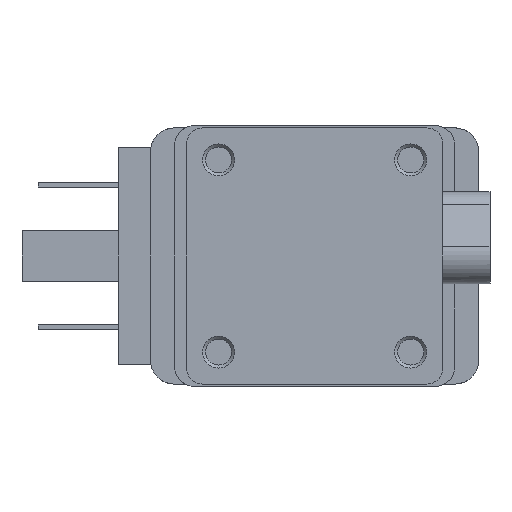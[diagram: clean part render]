
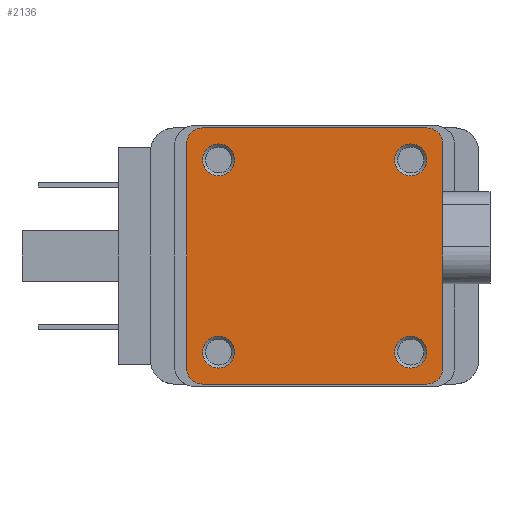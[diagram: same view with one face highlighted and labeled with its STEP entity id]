
A CAD part, front view. The second image highlights one B-rep face of the part: STEP entity #2136.
In plain terms, the highlighted planar face has unit normal (0, -1, 0).
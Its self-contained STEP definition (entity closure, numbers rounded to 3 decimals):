
#90=CIRCLE('',#2260,2.);
#91=CIRCLE('',#2263,2.);
#93=CIRCLE('',#2267,2.);
#96=CIRCLE('',#2272,2.);
#98=CIRCLE('',#2276,2.);
#99=CIRCLE('',#2277,2.);
#100=CIRCLE('',#2278,2.);
#101=CIRCLE('',#2279,2.);
#448=ORIENTED_EDGE('',*,*,#692,.F.);
#449=ORIENTED_EDGE('',*,*,#693,.F.);
#450=ORIENTED_EDGE('',*,*,#694,.F.);
#451=ORIENTED_EDGE('',*,*,#695,.F.);
#452=ORIENTED_EDGE('',*,*,#672,.F.);
#453=ORIENTED_EDGE('',*,*,#691,.F.);
#454=ORIENTED_EDGE('',*,*,#688,.F.);
#455=ORIENTED_EDGE('',*,*,#685,.F.);
#456=ORIENTED_EDGE('',*,*,#681,.F.);
#457=ORIENTED_EDGE('',*,*,#679,.F.);
#458=ORIENTED_EDGE('',*,*,#676,.F.);
#459=ORIENTED_EDGE('',*,*,#674,.F.);
#672=EDGE_CURVE('',#823,#824,#90,.T.);
#674=EDGE_CURVE('',#824,#825,#977,.T.);
#676=EDGE_CURVE('',#825,#826,#91,.T.);
#679=EDGE_CURVE('',#826,#828,#980,.T.);
#681=EDGE_CURVE('',#828,#829,#93,.T.);
#685=EDGE_CURVE('',#829,#832,#984,.T.);
#688=EDGE_CURVE('',#832,#833,#96,.T.);
#691=EDGE_CURVE('',#833,#823,#987,.T.);
#692=EDGE_CURVE('',#835,#835,#98,.T.);
#693=EDGE_CURVE('',#836,#836,#99,.T.);
#694=EDGE_CURVE('',#837,#837,#100,.T.);
#695=EDGE_CURVE('',#838,#838,#101,.T.);
#823=VERTEX_POINT('',#3086);
#824=VERTEX_POINT('',#3088);
#825=VERTEX_POINT('',#3092);
#826=VERTEX_POINT('',#3096);
#828=VERTEX_POINT('',#3102);
#829=VERTEX_POINT('',#3106);
#832=VERTEX_POINT('',#3114);
#833=VERTEX_POINT('',#3119);
#835=VERTEX_POINT('',#3127);
#836=VERTEX_POINT('',#3129);
#837=VERTEX_POINT('',#3131);
#838=VERTEX_POINT('',#3133);
#977=LINE('',#3091,#1114);
#980=LINE('',#3101,#1117);
#984=LINE('',#3113,#1121);
#987=LINE('',#3124,#1124);
#1114=VECTOR('',#2634,1000.);
#1117=VECTOR('',#2645,1000.);
#1121=VECTOR('',#2657,1000.);
#1124=VECTOR('',#2670,1000.);
#1208=EDGE_LOOP('',(#448));
#1209=EDGE_LOOP('',(#449));
#1210=EDGE_LOOP('',(#450));
#1211=EDGE_LOOP('',(#451));
#1212=EDGE_LOOP('',(#452,#453,#454,#455,#456,#457,#458,#459));
#1329=FACE_BOUND('',#1208,.T.);
#1330=FACE_BOUND('',#1209,.T.);
#1331=FACE_BOUND('',#1210,.T.);
#1332=FACE_BOUND('',#1211,.T.);
#1333=FACE_BOUND('',#1212,.T.);
#1421=PLANE('',#2275);
#2136=ADVANCED_FACE('',(#1329,#1330,#1331,#1332,#1333),#1421,.F.);
#2260=AXIS2_PLACEMENT_3D('',#3087,#2629,#2630);
#2263=AXIS2_PLACEMENT_3D('',#3095,#2638,#2639);
#2267=AXIS2_PLACEMENT_3D('',#3105,#2649,#2650);
#2272=AXIS2_PLACEMENT_3D('',#3118,#2663,#2664);
#2275=AXIS2_PLACEMENT_3D('',#3125,#2671,#2672);
#2276=AXIS2_PLACEMENT_3D('',#3126,#2673,#2674);
#2277=AXIS2_PLACEMENT_3D('',#3128,#2675,#2676);
#2278=AXIS2_PLACEMENT_3D('',#3130,#2677,#2678);
#2279=AXIS2_PLACEMENT_3D('',#3132,#2679,#2680);
#2629=DIRECTION('',(0.,1.,0.));
#2630=DIRECTION('',(1.,0.,0.));
#2634=DIRECTION('',(0.,0.,1.));
#2638=DIRECTION('',(0.,1.,0.));
#2639=DIRECTION('',(1.,0.,0.));
#2645=DIRECTION('',(1.,0.,0.));
#2649=DIRECTION('',(0.,1.,0.));
#2650=DIRECTION('',(1.,0.,0.));
#2657=DIRECTION('',(0.,0.,-1.));
#2663=DIRECTION('',(0.,1.,0.));
#2664=DIRECTION('',(1.,0.,0.));
#2670=DIRECTION('',(-1.,0.,0.));
#2671=DIRECTION('',(0.,1.,0.));
#2672=DIRECTION('',(0.,0.,1.));
#2673=DIRECTION('',(0.,-1.,0.));
#2674=DIRECTION('',(0.,0.,-1.));
#2675=DIRECTION('',(0.,-1.,0.));
#2676=DIRECTION('',(0.,0.,-1.));
#2677=DIRECTION('',(0.,-1.,0.));
#2678=DIRECTION('',(0.,0.,-1.));
#2679=DIRECTION('',(0.,-1.,0.));
#2680=DIRECTION('',(0.,0.,-1.));
#3086=CARTESIAN_POINT('',(6.5,-20.8,-32.));
#3087=CARTESIAN_POINT('',(6.5,-20.8,-30.));
#3088=CARTESIAN_POINT('',(4.5,-20.8,-30.));
#3091=CARTESIAN_POINT('',(4.5,-20.8,-30.));
#3092=CARTESIAN_POINT('',(4.5,-20.8,-2.));
#3095=CARTESIAN_POINT('',(6.5,-20.8,-2.));
#3096=CARTESIAN_POINT('',(6.5,-20.8,0.));
#3101=CARTESIAN_POINT('',(6.5,-20.8,0.));
#3102=CARTESIAN_POINT('',(34.5,-20.8,0.));
#3105=CARTESIAN_POINT('',(34.5,-20.8,-2.));
#3106=CARTESIAN_POINT('',(36.5,-20.8,-2.));
#3113=CARTESIAN_POINT('',(36.5,-20.8,-2.));
#3114=CARTESIAN_POINT('',(36.5,-20.8,-30.));
#3118=CARTESIAN_POINT('',(34.5,-20.8,-30.));
#3119=CARTESIAN_POINT('',(34.5,-20.8,-32.));
#3124=CARTESIAN_POINT('',(34.5,-20.8,-32.));
#3125=CARTESIAN_POINT('',(6.5,-20.8,-30.));
#3126=CARTESIAN_POINT('',(8.5,-20.8,-28.));
#3127=CARTESIAN_POINT('',(8.5,-20.8,-30.));
#3128=CARTESIAN_POINT('',(32.5,-20.8,-4.));
#3129=CARTESIAN_POINT('',(32.5,-20.8,-6.));
#3130=CARTESIAN_POINT('',(32.5,-20.8,-28.));
#3131=CARTESIAN_POINT('',(32.5,-20.8,-30.));
#3132=CARTESIAN_POINT('',(8.5,-20.8,-4.));
#3133=CARTESIAN_POINT('',(8.5,-20.8,-6.));
